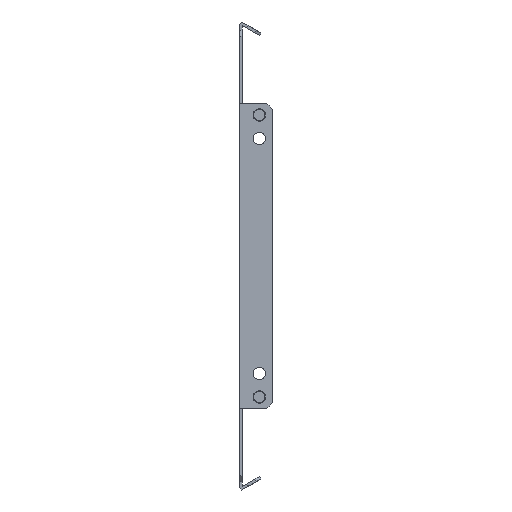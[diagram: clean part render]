
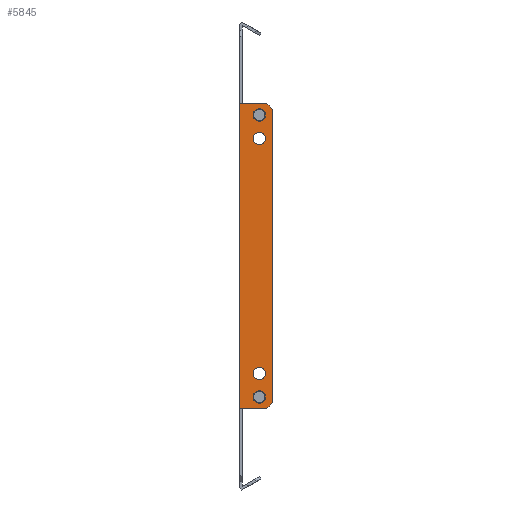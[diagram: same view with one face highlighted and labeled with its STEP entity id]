
A CAD part, front view. The second image highlights one B-rep face of the part: STEP entity #5845.
In plain terms, the highlighted planar face has unit normal (0, -1, 0).
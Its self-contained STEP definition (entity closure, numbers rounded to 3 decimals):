
#16 = DIRECTION ( 'NONE',  ( -1., 0., 0. ) ) ;
#118 = FACE_BOUND ( 'NONE', #8029, .T. ) ;
#149 = DIRECTION ( 'NONE',  ( 0., -1., 0. ) ) ;
#158 = PLANE ( 'NONE',  #4221 ) ;
#217 = CARTESIAN_POINT ( 'NONE',  ( 5.988, -152.413, -76.325 ) ) ;
#320 = LINE ( 'NONE', #6238, #7212 ) ;
#391 = ORIENTED_EDGE ( 'NONE', *, *, #7594, .F. ) ;
#393 = DIRECTION ( 'NONE',  ( -1., 0., 0. ) ) ;
#394 = ORIENTED_EDGE ( 'NONE', *, *, #8469, .T. ) ;
#463 = DIRECTION ( 'NONE',  ( 0., -1., 0. ) ) ;
#473 = ORIENTED_EDGE ( 'NONE', *, *, #2218, .F. ) ;
#495 = DIRECTION ( 'NONE',  ( 0., 0., -1. ) ) ;
#536 = CARTESIAN_POINT ( 'NONE',  ( -7.762, -152.413, 79.675 ) ) ;
#548 = CARTESIAN_POINT ( 'NONE',  ( -7.762, -152.413, -1.325 ) ) ;
#556 = DIRECTION ( 'NONE',  ( -1., 0., 0. ) ) ;
#623 = EDGE_CURVE ( 'NONE', #5939, #7757, #3239, .T. ) ;
#624 = ORIENTED_EDGE ( 'NONE', *, *, #4796, .F. ) ;
#680 = CARTESIAN_POINT ( 'NONE',  ( 2.738, -152.413, 73.675 ) ) ;
#703 = DIRECTION ( 'NONE',  ( 0., -1., 0. ) ) ;
#785 = ORIENTED_EDGE ( 'NONE', *, *, #623, .T. ) ;
#828 = VECTOR ( 'NONE', #8736, 1000. ) ;
#961 = VERTEX_POINT ( 'NONE', #6282 ) ;
#1037 = CARTESIAN_POINT ( 'NONE',  ( 2.738, -152.413, 61.175 ) ) ;
#1145 = VERTEX_POINT ( 'NONE', #3551 ) ;
#1199 = EDGE_CURVE ( 'NONE', #1667, #7286, #2346, .T. ) ;
#1228 = CARTESIAN_POINT ( 'NONE',  ( 2.738, -152.413, 61.175 ) ) ;
#1236 = CARTESIAN_POINT ( 'NONE',  ( -0.512, -152.413, 61.175 ) ) ;
#1267 = DIRECTION ( 'NONE',  ( 0., -1., 0. ) ) ;
#1296 = EDGE_CURVE ( 'NONE', #4888, #4145, #3046, .T. ) ;
#1297 = ORIENTED_EDGE ( 'NONE', *, *, #4414, .T. ) ;
#1393 = CARTESIAN_POINT ( 'NONE',  ( 2.738, -152.413, -63.825 ) ) ;
#1398 = ORIENTED_EDGE ( 'NONE', *, *, #7471, .F. ) ;
#1426 = AXIS2_PLACEMENT_3D ( 'NONE', #7653, #4095, #2463 ) ;
#1535 = EDGE_CURVE ( 'NONE', #9288, #4391, #2855, .T. ) ;
#1578 = CARTESIAN_POINT ( 'NONE',  ( -7.762, -152.413, -82.325 ) ) ;
#1667 = VERTEX_POINT ( 'NONE', #5769 ) ;
#1877 = DIRECTION ( 'NONE',  ( 0.707, 0., 0.707 ) ) ;
#1891 = VECTOR ( 'NONE', #4531, 1000. ) ;
#1956 = CIRCLE ( 'NONE', #2417, 3.25 ) ;
#2096 = VECTOR ( 'NONE', #4741, 1000. ) ;
#2101 = AXIS2_PLACEMENT_3D ( 'NONE', #1037, #149, #5331 ) ;
#2109 = CARTESIAN_POINT ( 'NONE',  ( 2.738, -152.413, -76.325 ) ) ;
#2152 = LINE ( 'NONE', #4368, #6322 ) ;
#2218 = EDGE_CURVE ( 'NONE', #5939, #5273, #8225, .T. ) ;
#2246 = CARTESIAN_POINT ( 'NONE',  ( 5.988, -152.413, 73.675 ) ) ;
#2259 = EDGE_CURVE ( 'NONE', #4145, #4888, #9489, .T. ) ;
#2265 = DIRECTION ( 'NONE',  ( -1., 0., 0. ) ) ;
#2346 = CIRCLE ( 'NONE', #3568, 3.25 ) ;
#2347 = FACE_BOUND ( 'NONE', #5634, .T. ) ;
#2417 = AXIS2_PLACEMENT_3D ( 'NONE', #7823, #7100, #2580 ) ;
#2458 = ORIENTED_EDGE ( 'NONE', *, *, #2259, .F. ) ;
#2463 = DIRECTION ( 'NONE',  ( -1., 0., 0. ) ) ;
#2580 = DIRECTION ( 'NONE',  ( -1., 0., 0. ) ) ;
#2732 = CARTESIAN_POINT ( 'NONE',  ( -5.262, -152.413, -82.325 ) ) ;
#2750 = ORIENTED_EDGE ( 'NONE', *, *, #3992, .F. ) ;
#2855 = LINE ( 'NONE', #536, #828 ) ;
#2867 = VERTEX_POINT ( 'NONE', #1236 ) ;
#2871 = CARTESIAN_POINT ( 'NONE',  ( -5.262, -152.413, 79.675 ) ) ;
#3046 = CIRCLE ( 'NONE', #3814, 3.25 ) ;
#3101 = EDGE_CURVE ( 'NONE', #1145, #5273, #9382, .T. ) ;
#3239 = LINE ( 'NONE', #6974, #2096 ) ;
#3361 = DIRECTION ( 'NONE',  ( 1., 0., 0. ) ) ;
#3367 = ORIENTED_EDGE ( 'NONE', *, *, #5070, .T. ) ;
#3373 = DIRECTION ( 'NONE',  ( 0., 0., 1. ) ) ;
#3401 = EDGE_LOOP ( 'NONE', ( #1398, #391 ) ) ;
#3511 = ORIENTED_EDGE ( 'NONE', *, *, #3101, .T. ) ;
#3551 = CARTESIAN_POINT ( 'NONE',  ( -7.762, -152.413, 79.675 ) ) ;
#3568 = AXIS2_PLACEMENT_3D ( 'NONE', #7204, #463, #556 ) ;
#3586 = CARTESIAN_POINT ( 'NONE',  ( -7.762, -152.413, -1.325 ) ) ;
#3647 = AXIS2_PLACEMENT_3D ( 'NONE', #1228, #7141, #6261 ) ;
#3776 = VERTEX_POINT ( 'NONE', #4793 ) ;
#3814 = AXIS2_PLACEMENT_3D ( 'NONE', #2109, #703, #16 ) ;
#3821 = CARTESIAN_POINT ( 'NONE',  ( -0.512, -152.413, -76.325 ) ) ;
#3860 = CARTESIAN_POINT ( 'NONE',  ( 6.738, -152.413, 79.675 ) ) ;
#3887 = AXIS2_PLACEMENT_3D ( 'NONE', #680, #1267, #8057 ) ;
#3945 = CARTESIAN_POINT ( 'NONE',  ( 9.738, -152.413, 76.675 ) ) ;
#3992 = EDGE_CURVE ( 'NONE', #3776, #961, #7407, .T. ) ;
#4095 = DIRECTION ( 'NONE',  ( 0., -1., 0. ) ) ;
#4145 = VERTEX_POINT ( 'NONE', #217 ) ;
#4167 = CARTESIAN_POINT ( 'NONE',  ( -5.262, -152.413, 79.675 ) ) ;
#4195 = VERTEX_POINT ( 'NONE', #3945 ) ;
#4221 = AXIS2_PLACEMENT_3D ( 'NONE', #548, #7885, #3361 ) ;
#4255 = VECTOR ( 'NONE', #495, 1000. ) ;
#4368 = CARTESIAN_POINT ( 'NONE',  ( 9.738, -152.413, -1.325 ) ) ;
#4391 = VERTEX_POINT ( 'NONE', #2871 ) ;
#4408 = CARTESIAN_POINT ( 'NONE',  ( 6.738, -152.413, -82.325 ) ) ;
#4414 = EDGE_CURVE ( 'NONE', #9253, #4195, #2152, .T. ) ;
#4530 = DIRECTION ( 'NONE',  ( 0., -1., 0. ) ) ;
#4531 = DIRECTION ( 'NONE',  ( -1., 0., 0. ) ) ;
#4741 = DIRECTION ( 'NONE',  ( 1., 0., 0. ) ) ;
#4793 = CARTESIAN_POINT ( 'NONE',  ( 5.988, -152.413, -63.825 ) ) ;
#4796 = EDGE_CURVE ( 'NONE', #7286, #1667, #7931, .T. ) ;
#4821 = VECTOR ( 'NONE', #6100, 1000. ) ;
#4876 = VERTEX_POINT ( 'NONE', #8890 ) ;
#4888 = VERTEX_POINT ( 'NONE', #3821 ) ;
#4924 = AXIS2_PLACEMENT_3D ( 'NONE', #1393, #4530, #2265 ) ;
#4999 = ORIENTED_EDGE ( 'NONE', *, *, #7591, .F. ) ;
#5062 = CARTESIAN_POINT ( 'NONE',  ( 6.738, -152.413, 79.675 ) ) ;
#5070 = EDGE_CURVE ( 'NONE', #4195, #9288, #5518, .T. ) ;
#5142 = ORIENTED_EDGE ( 'NONE', *, *, #1296, .F. ) ;
#5273 = VERTEX_POINT ( 'NONE', #6716 ) ;
#5331 = DIRECTION ( 'NONE',  ( -1., 0., 0. ) ) ;
#5510 = CIRCLE ( 'NONE', #2101, 3.25 ) ;
#5518 = LINE ( 'NONE', #3860, #4821 ) ;
#5530 = LINE ( 'NONE', #4167, #6572 ) ;
#5634 = EDGE_LOOP ( 'NONE', ( #4999, #2750 ) ) ;
#5642 = CARTESIAN_POINT ( 'NONE',  ( 9.738, -152.413, -79.325 ) ) ;
#5724 = ORIENTED_EDGE ( 'NONE', *, *, #1199, .F. ) ;
#5769 = CARTESIAN_POINT ( 'NONE',  ( -0.512, -152.413, 73.675 ) ) ;
#5845 = ADVANCED_FACE ( 'NONE', ( #118, #6030, #9000, #2347, #6805 ), #158, .F. ) ;
#5939 = VERTEX_POINT ( 'NONE', #2732 ) ;
#6030 = FACE_BOUND ( 'NONE', #3401, .T. ) ;
#6100 = DIRECTION ( 'NONE',  ( -0.707, 0., 0.707 ) ) ;
#6238 = CARTESIAN_POINT ( 'NONE',  ( 9.738, -152.413, -79.325 ) ) ;
#6261 = DIRECTION ( 'NONE',  ( -1., 0., 0. ) ) ;
#6282 = CARTESIAN_POINT ( 'NONE',  ( -0.512, -152.413, -63.825 ) ) ;
#6322 = VECTOR ( 'NONE', #3373, 1000. ) ;
#6572 = VECTOR ( 'NONE', #393, 1000. ) ;
#6716 = CARTESIAN_POINT ( 'NONE',  ( -7.762, -152.413, -82.325 ) ) ;
#6781 = ORIENTED_EDGE ( 'NONE', *, *, #8991, .T. ) ;
#6793 = EDGE_LOOP ( 'NONE', ( #1297, #3367, #7088, #6781, #3511, #473, #785, #394 ) ) ;
#6805 = FACE_OUTER_BOUND ( 'NONE', #6793, .T. ) ;
#6821 = EDGE_LOOP ( 'NONE', ( #5142, #2458 ) ) ;
#6974 = CARTESIAN_POINT ( 'NONE',  ( -7.762, -152.413, -82.325 ) ) ;
#7088 = ORIENTED_EDGE ( 'NONE', *, *, #1535, .T. ) ;
#7100 = DIRECTION ( 'NONE',  ( 0., -1., 0. ) ) ;
#7141 = DIRECTION ( 'NONE',  ( 0., -1., 0. ) ) ;
#7204 = CARTESIAN_POINT ( 'NONE',  ( 2.738, -152.413, 73.675 ) ) ;
#7212 = VECTOR ( 'NONE', #1877, 1000. ) ;
#7286 = VERTEX_POINT ( 'NONE', #2246 ) ;
#7407 = CIRCLE ( 'NONE', #4924, 3.25 ) ;
#7471 = EDGE_CURVE ( 'NONE', #2867, #4876, #5510, .T. ) ;
#7591 = EDGE_CURVE ( 'NONE', #961, #3776, #1956, .T. ) ;
#7594 = EDGE_CURVE ( 'NONE', #4876, #2867, #9083, .T. ) ;
#7653 = CARTESIAN_POINT ( 'NONE',  ( 2.738, -152.413, -76.325 ) ) ;
#7757 = VERTEX_POINT ( 'NONE', #4408 ) ;
#7823 = CARTESIAN_POINT ( 'NONE',  ( 2.738, -152.413, -63.825 ) ) ;
#7885 = DIRECTION ( 'NONE',  ( 0., 1., 0. ) ) ;
#7931 = CIRCLE ( 'NONE', #3887, 3.25 ) ;
#8029 = EDGE_LOOP ( 'NONE', ( #5724, #624 ) ) ;
#8057 = DIRECTION ( 'NONE',  ( -1., 0., 0. ) ) ;
#8225 = LINE ( 'NONE', #1578, #1891 ) ;
#8469 = EDGE_CURVE ( 'NONE', #7757, #9253, #320, .T. ) ;
#8736 = DIRECTION ( 'NONE',  ( -1., 0., 0. ) ) ;
#8890 = CARTESIAN_POINT ( 'NONE',  ( 5.988, -152.413, 61.175 ) ) ;
#8991 = EDGE_CURVE ( 'NONE', #4391, #1145, #5530, .T. ) ;
#9000 = FACE_BOUND ( 'NONE', #6821, .T. ) ;
#9083 = CIRCLE ( 'NONE', #3647, 3.25 ) ;
#9253 = VERTEX_POINT ( 'NONE', #5642 ) ;
#9288 = VERTEX_POINT ( 'NONE', #5062 ) ;
#9382 = LINE ( 'NONE', #3586, #4255 ) ;
#9489 = CIRCLE ( 'NONE', #1426, 3.25 ) ;
